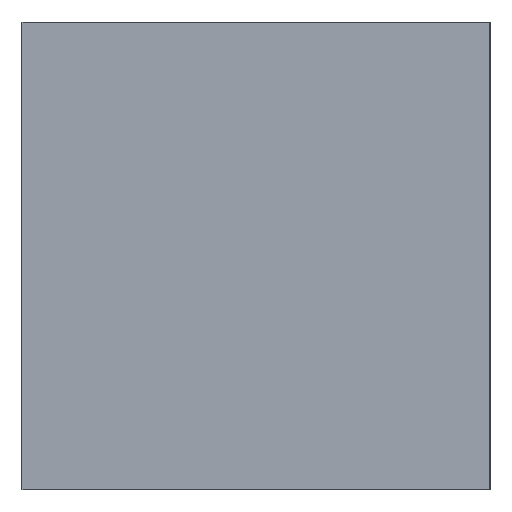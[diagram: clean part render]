
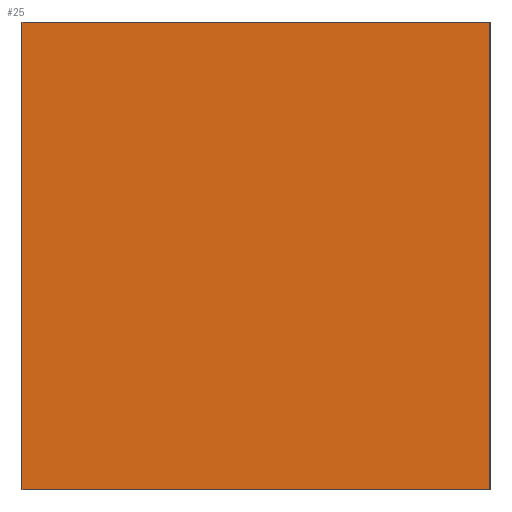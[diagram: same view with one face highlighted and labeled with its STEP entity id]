
A CAD part, left-side view. The second image highlights one B-rep face of the part: STEP entity #25.
In plain terms, the highlighted planar face has unit normal (-1, 0, 0).
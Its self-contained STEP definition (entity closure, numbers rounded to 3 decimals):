
#25=ADVANCED_FACE('',(#31),#183,.T.);
#31=FACE_OUTER_BOUND('',#37,.T.);
#37=EDGE_LOOP('',(#46,#47,#48,#49));
#46=ORIENTED_EDGE('',*,*,#126,.F.);
#47=ORIENTED_EDGE('',*,*,#130,.T.);
#48=ORIENTED_EDGE('',*,*,#131,.T.);
#49=ORIENTED_EDGE('',*,*,#132,.T.);
#66=PCURVE('',#182,#90);
#70=PCURVE('',#183,#94);
#71=PCURVE('',#183,#95);
#72=PCURVE('',#183,#96);
#73=PCURVE('',#183,#97);
#77=PCURVE('',#184,#101);
#79=PCURVE('',#185,#103);
#88=PCURVE('',#187,#112);
#90=DEFINITIONAL_REPRESENTATION('',(#139),#313);
#94=DEFINITIONAL_REPRESENTATION('',(#146),#313);
#95=DEFINITIONAL_REPRESENTATION('',(#148),#313);
#96=DEFINITIONAL_REPRESENTATION('',(#150),#313);
#97=DEFINITIONAL_REPRESENTATION('',(#152),#313);
#101=DEFINITIONAL_REPRESENTATION('',(#159),#313);
#103=DEFINITIONAL_REPRESENTATION('',(#161),#313);
#112=DEFINITIONAL_REPRESENTATION('',(#172),#313);
#114=SURFACE_CURVE('',#138,(#66,#70),.PCURVE_S1.);
#118=SURFACE_CURVE('',#147,(#71,#88),.PCURVE_S1.);
#119=SURFACE_CURVE('',#149,(#72,#77),.PCURVE_S1.);
#120=SURFACE_CURVE('',#151,(#73,#79),.PCURVE_S1.);
#126=EDGE_CURVE('',#174,#176,#114,.T.);
#130=EDGE_CURVE('',#174,#175,#118,.T.);
#131=EDGE_CURVE('',#175,#179,#119,.T.);
#132=EDGE_CURVE('',#179,#176,#120,.T.);
#138=B_SPLINE_CURVE_WITH_KNOTS('',1,(#240,#241),.UNSPECIFIED.,.F.,.F.,(2,
2),(-3280.,-3240.),.UNSPECIFIED.);
#139=B_SPLINE_CURVE_WITH_KNOTS('',1,(#242,#243),.UNSPECIFIED.,.F.,.F.,(2,
2),(-3280.,-3240.),.UNSPECIFIED.);
#146=B_SPLINE_CURVE_WITH_KNOTS('',1,(#256,#257),.UNSPECIFIED.,.F.,.F.,(2,
2),(-3280.,-3240.),.UNSPECIFIED.);
#147=B_SPLINE_CURVE_WITH_KNOTS('',1,(#258,#259),.UNSPECIFIED.,.F.,.F.,(2,
2),(0.,80.),.UNSPECIFIED.);
#148=B_SPLINE_CURVE_WITH_KNOTS('',1,(#260,#261),.UNSPECIFIED.,.F.,.F.,(2,
2),(0.,80.),.UNSPECIFIED.);
#149=B_SPLINE_CURVE_WITH_KNOTS('',1,(#262,#263),.UNSPECIFIED.,.F.,.F.,(2,
2),(-3280.,-3240.),.UNSPECIFIED.);
#150=B_SPLINE_CURVE_WITH_KNOTS('',1,(#264,#265),.UNSPECIFIED.,.F.,.F.,(2,
2),(-3280.,-3240.),.UNSPECIFIED.);
#151=B_SPLINE_CURVE_WITH_KNOTS('',1,(#266,#267),.UNSPECIFIED.,.F.,.F.,(2,
2),(-80.,0.),.UNSPECIFIED.);
#152=B_SPLINE_CURVE_WITH_KNOTS('',1,(#268,#269),.UNSPECIFIED.,.F.,.F.,(2,
2),(-80.,0.),.UNSPECIFIED.);
#159=B_SPLINE_CURVE_WITH_KNOTS('',1,(#282,#283),.UNSPECIFIED.,.F.,.F.,(2,
2),(-3280.,-3240.),.UNSPECIFIED.);
#161=B_SPLINE_CURVE_WITH_KNOTS('',1,(#286,#287),.UNSPECIFIED.,.F.,.F.,(2,
2),(-80.,0.),.UNSPECIFIED.);
#172=B_SPLINE_CURVE_WITH_KNOTS('',1,(#308,#309),.UNSPECIFIED.,.F.,.F.,(2,
2),(0.,80.),.UNSPECIFIED.);
#174=VERTEX_POINT('',#232);
#175=VERTEX_POINT('',#233);
#176=VERTEX_POINT('',#234);
#179=VERTEX_POINT('',#237);
#182=PLANE('',#208);
#183=PLANE('',#209);
#184=PLANE('',#210);
#185=PLANE('',#211);
#187=PLANE('',#213);
#208=AXIS2_PLACEMENT_3D('',#226,#217,$);
#209=AXIS2_PLACEMENT_3D('',#227,#218,$);
#210=AXIS2_PLACEMENT_3D('',#228,#219,$);
#211=AXIS2_PLACEMENT_3D('',#229,#220,$);
#213=AXIS2_PLACEMENT_3D('',#231,#222,$);
#217=DIRECTION('',(0.,0.,-1.));
#218=DIRECTION('',(-1.,0.,0.));
#219=DIRECTION('',(0.,0.,1.));
#220=DIRECTION('',(0.,1.,0.));
#222=DIRECTION('',(0.,-1.,0.));
#226=CARTESIAN_POINT('',(-782.,-585.,40.));
#227=CARTESIAN_POINT('',(-782.,-585.,40.));
#228=CARTESIAN_POINT('',(-782.,-585.,60.));
#229=CARTESIAN_POINT('',(-782.,-565.,40.));
#231=CARTESIAN_POINT('',(782.,-585.,40.));
#232=CARTESIAN_POINT('',(-782.,-585.,40.));
#233=CARTESIAN_POINT('',(-782.,-585.,60.));
#234=CARTESIAN_POINT('',(-782.,-565.,40.));
#237=CARTESIAN_POINT('',(-782.,-565.,60.));
#240=CARTESIAN_POINT('',(-782.,-585.,40.));
#241=CARTESIAN_POINT('',(-782.,-565.,40.));
#242=CARTESIAN_POINT('',(0.,0.));
#243=CARTESIAN_POINT('',(40.,0.));
#256=CARTESIAN_POINT('',(0.,-3280.));
#257=CARTESIAN_POINT('',(0.,-3240.));
#258=CARTESIAN_POINT('',(-782.,-585.,40.));
#259=CARTESIAN_POINT('',(-782.,-585.,60.));
#260=CARTESIAN_POINT('',(0.,-3280.));
#261=CARTESIAN_POINT('',(80.,-3280.));
#262=CARTESIAN_POINT('',(-782.,-585.,60.));
#263=CARTESIAN_POINT('',(-782.,-565.,60.));
#264=CARTESIAN_POINT('',(80.,-3280.));
#265=CARTESIAN_POINT('',(80.,-3240.));
#266=CARTESIAN_POINT('',(-782.,-565.,60.));
#267=CARTESIAN_POINT('',(-782.,-565.,40.));
#268=CARTESIAN_POINT('',(80.,-3240.));
#269=CARTESIAN_POINT('',(0.,-3240.));
#282=CARTESIAN_POINT('',(0.,0.));
#283=CARTESIAN_POINT('',(0.,40.));
#286=CARTESIAN_POINT('',(80.,-3240.));
#287=CARTESIAN_POINT('',(0.,-3240.));
#308=CARTESIAN_POINT('',(0.,0.));
#309=CARTESIAN_POINT('',(80.,0.));
#313=(
GEOMETRIC_REPRESENTATION_CONTEXT(2)
PARAMETRIC_REPRESENTATION_CONTEXT()
REPRESENTATION_CONTEXT('pspace','')
);
